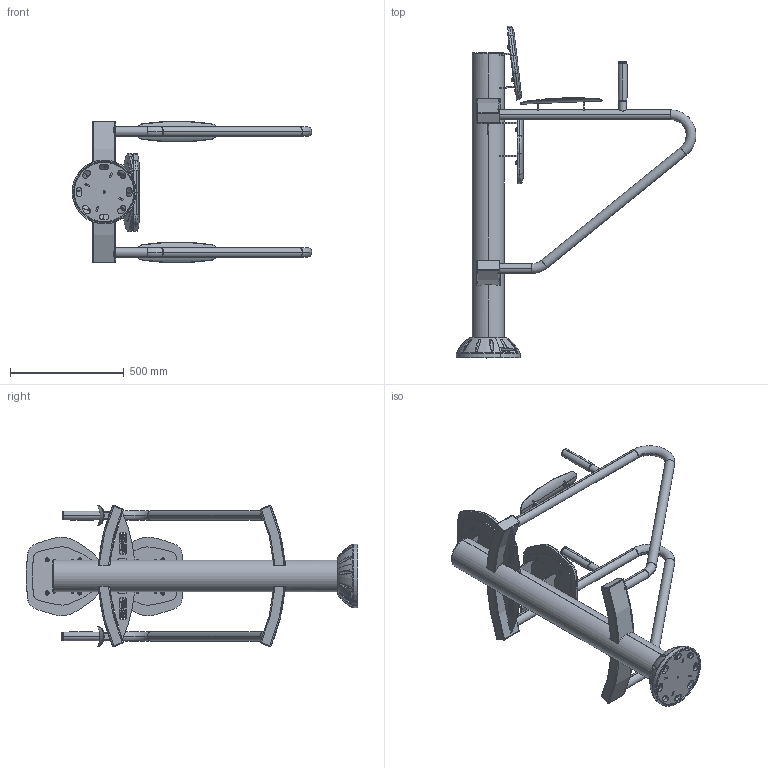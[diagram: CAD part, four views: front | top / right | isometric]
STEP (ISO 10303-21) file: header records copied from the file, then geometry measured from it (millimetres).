
FILE_DESCRIPTION (( 'STEP AP203' ), '1' );
FILE_NAME ('M0318 - DIPS-GAINAGE SIMPLE V1.0.STEP', '2019-03-29T13:09:28', ( '' ), ( '' ), 'SwSTEP 2.0', 'SolidWorks 2018', '' );
FILE_SCHEMA (( 'CONFIG_CONTROL_DESIGN' ));
Length unit declared in the file: millimetre
Products named in the file (28): SSD0720 - SIEGE DOSSIER ASS V1.2_‚p.5 - Fixation dossier; PU-TRETRAV618 - Tube rectangulaire cintré R750 100x50x3 L618 V1.0_Trous D.42,4 non traversant 1; PU-TROPOI210 - Tube d.33,7x2,9 avec gueule de loup d.42,4 V1.1_L=210; PU-TOLGODO48 - Gousset support dossier L=48 V1.0; PU-TOLGODO78 - Gousset support dossier L=78 V1.0; PLATINE BASE ASS V2.0; SC0304 - Demi cache platine D140 V4.0; SCH1806.A - Chapeau D135 V1.0; PU-TOLGODO66 - Gousset support dossier L=66 V1.0; PU-TDRFIT219 - Tole renfort Fitpark L219 H106 V1.0; SSD0720 - SIEGE DOSSIER ASS V1.2_‚p.3 - Fixation dossier; SR0415 - Rondelle Grower M8 A2; PU-TROCB1320 - Colonne base haute D.139,7x3 Ht1320 V1.0_Dips-gainage; SCH1807 - Chapeau 96x46 V1.0; M0318 - DIPS-GAINAGE SIMPLE V1.0; PU-TOLGOACC31 - Gousset support accoudoir H=31 V1.0; PU-TOLPLAT - Platine base V1.0; SSD0720 - Dossier-siège V1.2; M0318-B - CHASSIS DIPS-GAINAGE ASS V2.3_Simple; SSD0705.A - Plaque support dossier béton V1.1; TROCB-M0311 - Tube cintre bras V1.1; PU-TOLGOACC39 - Gousset support accoudoir H=39 V1.0; SR0404 - Rondelle plate Moyenne M8 A2; SB0112 - Vis Torx teton central M8x20_M8x20; PU-TOLGOPL - Gousset platine V2.0; PU-TROACC360 - Accoudoir tole cintree V2.1; SP0605 - Poignee plastique D.33,7 L=170; SC0304 - CACHE PLATINE ASS V4.0
Assembly tree (67 placements, depth 4):
  M0318 - DIPS-GAINAGE SIMPLE V1.0
    M0318-B - CHASSIS DIPS-GAINAGE ASS V2.3_Simple
      PLATINE BASE ASS V2.0
        PU-TOLPLAT - Platine base V1.0
        PU-TOLGOPL - Gousset platine V2.0  x4
      PU-TROCB1320 - Colonne base haute D.139,7x3 Ht1320 V1.0_Dips-gainage
      SCH1806.A - Chapeau D135 V1.0
      PU-TRETRAV618 - Tube rectangulaire cintré R750 100x50x3 L618 V1.0_Trous D.42,4 non traversant 1  x2
      SCH1807 - Chapeau 96x46 V1.0  x4
      TROCB-M0311 - Tube cintre bras V1.1  x2
      PU-TDRFIT219 - Tole renfort Fitpark L219 H106 V1.0  x2
      PU-TOLGOACC31 - Gousset support accoudoir H=31 V1.0  x2
      PU-TROACC360 - Accoudoir tole cintree V2.1  x2
      PU-TOLGOACC39 - Gousset support accoudoir H=39 V1.0  x2
      PU-TOLGODO78 - Gousset support dossier L=78 V1.0  x2
      PU-TOLGODO66 - Gousset support dossier L=66 V1.0
      PU-TOLGODO48 - Gousset support dossier L=48 V1.0
      PU-TROPOI210 - Tube d.33,7x2,9 avec gueule de loup d.42,4 V1.1_L=210  x2
      SSD0705.A - Plaque support dossier béton V1.1  x2
    SC0304 - CACHE PLATINE ASS V4.0
      SC0304 - Demi cache platine D140 V4.0
      SB0112 - Vis Torx teton central M8x20_M8x20  x2
    SSD0720 - SIEGE DOSSIER ASS V1.2_‚p.5 - Fixation dossier
      SSD0720 - Dossier-siège V1.2
      SR0404 - Rondelle plate Moyenne M8 A2  x4
      SB0112 - Vis Torx teton central M8x20_M8x20  x4
      SR0415 - Rondelle Grower M8 A2  x4
    SSD0720 - SIEGE DOSSIER ASS V1.2_‚p.3 - Fixation dossier
      SSD0720 - Dossier-siège V1.2
      SR0404 - Rondelle plate Moyenne M8 A2  x4
      SB0112 - Vis Torx teton central M8x20_M8x20  x4
      SR0415 - Rondelle Grower M8 A2  x4
    SP0605 - Poignee plastique D.33,7 L=170  x2
Bounding box: 1051.27 x 1456.11 x 621.97 mm (x, y, z)
Volume: 10322471.1 mm3; surface area: 4235307.3 mm2
Topology: 63 solids, 63 shells, 1954 faces, 5106 edges, 3318 vertices
Faces by surface type: cylinder 668, plane 574, bspline 520, cone 108, torus 80, sphere 4
Entity records: 135788 total; most frequent: CARTESIAN_POINT 108049, ORIENTED_EDGE 5546, DIRECTION 4122, EDGE_CURVE 2773, VERTEX_POINT 1793, AXIS2_PLACEMENT_3D 1564, EDGE_LOOP 1152, FACE_OUTER_BOUND 1036
